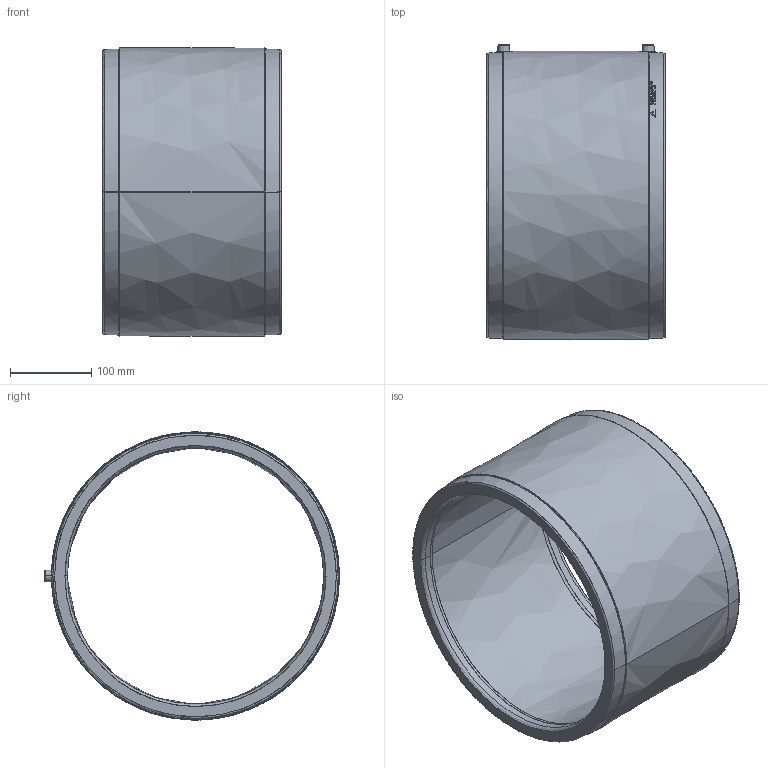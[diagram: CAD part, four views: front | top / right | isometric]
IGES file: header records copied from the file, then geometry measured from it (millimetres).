
Start section:  PTC IGES file: am_d315.igs
Global section: file name: am_d315.igs; native system: Pro/ENGINEER by Parametric Technology Corporation; preprocessor: 2011490; author: mtunjic; organization: Unknown; date: 20130729.163339; units: millimetre
Bounding box: 220 x 363.6 x 355 mm (x, y, z)
Surface area: 500380 mm2 (no closed solid volume)
Topology: 0 solids, 0 shells, 231 faces, 1104 edges, 1104 vertices
Faces by surface type: bspline 231
